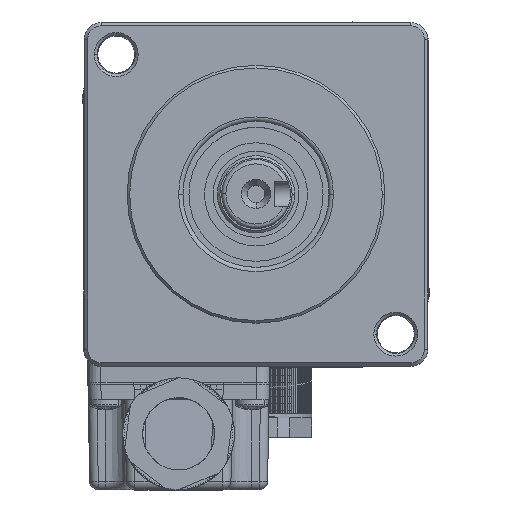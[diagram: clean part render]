
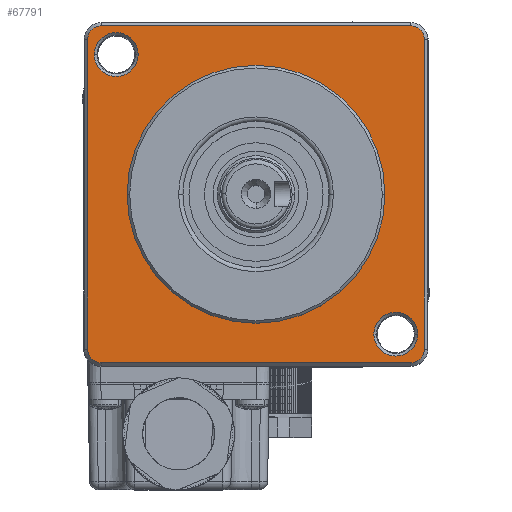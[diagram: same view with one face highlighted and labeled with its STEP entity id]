
A CAD part, top view. The second image highlights one B-rep face of the part: STEP entity #67791.
In plain terms, the highlighted planar face has unit normal (0, 0, 1).
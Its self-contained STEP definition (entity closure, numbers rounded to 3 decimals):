
#529 = FACE_BOUND ( 'NONE', #37255, .T. ) ;
#634 = DIRECTION ( 'NONE',  ( 0., 0., -1. ) ) ;
#776 = AXIS2_PLACEMENT_3D ( 'NONE', #30513, #68548, #35999 ) ;
#1549 = ORIENTED_EDGE ( 'NONE', *, *, #65966, .F. ) ;
#1742 = DIRECTION ( 'NONE',  ( 0., -1., 0. ) ) ;
#1791 = VECTOR ( 'NONE', #1742, 1000. ) ;
#1874 = EDGE_LOOP ( 'NONE', ( #19103, #3293, #68563, #58141, #1549, #63149, #64607, #27851 ) ) ;
#2596 = AXIS2_PLACEMENT_3D ( 'NONE', #44986, #12418, #50431 ) ;
#3293 = ORIENTED_EDGE ( 'NONE', *, *, #62099, .F. ) ;
#4223 = DIRECTION ( 'NONE',  ( 0., 0., -1. ) ) ;
#7172 = VERTEX_POINT ( 'NONE', #37139 ) ;
#7427 = CARTESIAN_POINT ( 'NONE',  ( 20.769, 1.553, 110. ) ) ;
#8245 = EDGE_CURVE ( 'NONE', #11551, #52463, #45125, .T. ) ;
#8761 = AXIS2_PLACEMENT_3D ( 'NONE', #10009, #48056, #15517 ) ;
#9031 = AXIS2_PLACEMENT_3D ( 'NONE', #56033, #28937, #66999 ) ;
#10009 = CARTESIAN_POINT ( 'NONE',  ( 1.169, 1.553, 110. ) ) ;
#11551 = VERTEX_POINT ( 'NONE', #59870 ) ;
#11583 = FACE_OUTER_BOUND ( 'NONE', #1874, .T. ) ;
#12418 = DIRECTION ( 'NONE',  ( 0., 0., -1. ) ) ;
#13029 = CIRCLE ( 'NONE', #57862, 2.55 ) ;
#14172 = CIRCLE ( 'NONE', #8761, 15. ) ;
#14634 = VERTEX_POINT ( 'NONE', #20790 ) ;
#14863 = DIRECTION ( 'NONE',  ( 0., 0., 1. ) ) ;
#15045 = EDGE_CURVE ( 'NONE', #33907, #22127, #35344, .T. ) ;
#15517 = DIRECTION ( 'NONE',  ( 1., 0., 0. ) ) ;
#15590 = VERTEX_POINT ( 'NONE', #62536 ) ;
#17226 = DIRECTION ( 'NONE',  ( 1., 0., 0. ) ) ;
#17272 = LINE ( 'NONE', #26955, #20663 ) ;
#17979 = PLANE ( 'NONE',  #9031 ) ;
#18024 = VERTEX_POINT ( 'NONE', #47745 ) ;
#19103 = ORIENTED_EDGE ( 'NONE', *, *, #68981, .F. ) ;
#19479 = CARTESIAN_POINT ( 'NONE',  ( 1.169, -18.047, 110. ) ) ;
#20207 = AXIS2_PLACEMENT_3D ( 'NONE', #22486, #60525, #27969 ) ;
#20663 = VECTOR ( 'NONE', #64989, 1000. ) ;
#20790 = CARTESIAN_POINT ( 'NONE',  ( 20.769, -16.447, 110. ) ) ;
#21400 = EDGE_CURVE ( 'NONE', #69579, #7172, #13029, .T. ) ;
#21945 = CARTESIAN_POINT ( 'NONE',  ( -17.645, 17.817, 110. ) ) ;
#22127 = VERTEX_POINT ( 'NONE', #21945 ) ;
#22486 = CARTESIAN_POINT ( 'NONE',  ( -15.095, 17.817, 110. ) ) ;
#22801 = CIRCLE ( 'NONE', #61708, 1.6 ) ;
#25074 = CARTESIAN_POINT ( 'NONE',  ( -18.431, 19.553, 110. ) ) ;
#25360 = CARTESIAN_POINT ( 'NONE',  ( 19.982, -14.71, 110. ) ) ;
#25461 = EDGE_CURVE ( 'NONE', #52463, #31807, #17272, .T. ) ;
#25966 = EDGE_CURVE ( 'NONE', #7172, #69579, #58896, .T. ) ;
#26069 = FACE_BOUND ( 'NONE', #28342, .T. ) ;
#26153 = CARTESIAN_POINT ( 'NONE',  ( 17.432, -14.71, 110. ) ) ;
#26955 = CARTESIAN_POINT ( 'NONE',  ( -18.431, 1.553, 110. ) ) ;
#27806 = CARTESIAN_POINT ( 'NONE',  ( -18.431, -16.447, 110. ) ) ;
#27851 = ORIENTED_EDGE ( 'NONE', *, *, #8245, .F. ) ;
#27969 = DIRECTION ( 'NONE',  ( 1., 0., 0. ) ) ;
#28342 = EDGE_LOOP ( 'NONE', ( #53800, #54242 ) ) ;
#28476 = DIRECTION ( 'NONE',  ( 0., 0., -1. ) ) ;
#28539 = VECTOR ( 'NONE', #63244, 1000. ) ;
#28937 = DIRECTION ( 'NONE',  ( 0., 0., 1. ) ) ;
#30513 = CARTESIAN_POINT ( 'NONE',  ( -15.095, 17.817, 110. ) ) ;
#30720 = LINE ( 'NONE', #7427, #1791 ) ;
#30828 = CARTESIAN_POINT ( 'NONE',  ( 17.432, -14.71, 110. ) ) ;
#31619 = DIRECTION ( 'NONE',  ( 1., 0., 0. ) ) ;
#31807 = VERTEX_POINT ( 'NONE', #25074 ) ;
#33251 = CARTESIAN_POINT ( 'NONE',  ( 19.169, -16.447, 110. ) ) ;
#33907 = VERTEX_POINT ( 'NONE', #50201 ) ;
#35344 = CIRCLE ( 'NONE', #776, 2.55 ) ;
#35788 = CIRCLE ( 'NONE', #2596, 1.6 ) ;
#35849 = VECTOR ( 'NONE', #17226, 1000. ) ;
#35999 = DIRECTION ( 'NONE',  ( 1., 0., 0. ) ) ;
#36202 = AXIS2_PLACEMENT_3D ( 'NONE', #33251, #634, #38708 ) ;
#36322 = DIRECTION ( 'NONE',  ( 1., 0., 0. ) ) ;
#36381 = VERTEX_POINT ( 'NONE', #56416 ) ;
#36612 = ORIENTED_EDGE ( 'NONE', *, *, #53493, .F. ) ;
#36708 = VERTEX_POINT ( 'NONE', #49462 ) ;
#36831 = CARTESIAN_POINT ( 'NONE',  ( -16.831, -16.447, 110. ) ) ;
#37139 = CARTESIAN_POINT ( 'NONE',  ( 14.882, -14.71, 110. ) ) ;
#37255 = EDGE_LOOP ( 'NONE', ( #41172, #50630 ) ) ;
#38708 = DIRECTION ( 'NONE',  ( 1., 0., 0. ) ) ;
#38888 = EDGE_CURVE ( 'NONE', #36708, #14634, #30720, .T. ) ;
#39392 = EDGE_LOOP ( 'NONE', ( #36612, #70486 ) ) ;
#39666 = VERTEX_POINT ( 'NONE', #47254 ) ;
#41172 = ORIENTED_EDGE ( 'NONE', *, *, #21400, .F. ) ;
#42264 = DIRECTION ( 'NONE',  ( 1., 0., 0. ) ) ;
#42980 = LINE ( 'NONE', #19479, #28539 ) ;
#43628 = VERTEX_POINT ( 'NONE', #51897 ) ;
#44799 = CARTESIAN_POINT ( 'NONE',  ( 1.169, 21.153, 110. ) ) ;
#44986 = CARTESIAN_POINT ( 'NONE',  ( -16.831, 19.553, 110. ) ) ;
#45125 = CIRCLE ( 'NONE', #66980, 1.6 ) ;
#46946 = AXIS2_PLACEMENT_3D ( 'NONE', #47422, #14863, #52904 ) ;
#47254 = CARTESIAN_POINT ( 'NONE',  ( -16.831, 21.153, 110. ) ) ;
#47422 = CARTESIAN_POINT ( 'NONE',  ( 1.169, 1.553, 110. ) ) ;
#47745 = CARTESIAN_POINT ( 'NONE',  ( 19.169, 21.153, 110. ) ) ;
#48056 = DIRECTION ( 'NONE',  ( 0., 0., 1. ) ) ;
#48825 = CIRCLE ( 'NONE', #46946, 15. ) ;
#49462 = CARTESIAN_POINT ( 'NONE',  ( 20.769, 19.553, 110. ) ) ;
#50201 = CARTESIAN_POINT ( 'NONE',  ( -12.545, 17.817, 110. ) ) ;
#50431 = DIRECTION ( 'NONE',  ( 1., 0., 0. ) ) ;
#50630 = ORIENTED_EDGE ( 'NONE', *, *, #25966, .F. ) ;
#51897 = CARTESIAN_POINT ( 'NONE',  ( -13.831, 1.553, 110. ) ) ;
#52463 = VERTEX_POINT ( 'NONE', #27806 ) ;
#52904 = DIRECTION ( 'NONE',  ( 1., 0., 0. ) ) ;
#53406 = CIRCLE ( 'NONE', #36202, 1.6 ) ;
#53493 = EDGE_CURVE ( 'NONE', #15590, #43628, #14172, .T. ) ;
#53800 = ORIENTED_EDGE ( 'NONE', *, *, #15045, .F. ) ;
#54242 = ORIENTED_EDGE ( 'NONE', *, *, #54694, .F. ) ;
#54694 = EDGE_CURVE ( 'NONE', #22127, #33907, #68486, .T. ) ;
#56033 = CARTESIAN_POINT ( 'NONE',  ( 1.169, 1.553, 110. ) ) ;
#56416 = CARTESIAN_POINT ( 'NONE',  ( 19.169, -18.047, 110. ) ) ;
#57638 = AXIS2_PLACEMENT_3D ( 'NONE', #26153, #64182, #31619 ) ;
#57862 = AXIS2_PLACEMENT_3D ( 'NONE', #30828, #68876, #36322 ) ;
#58141 = ORIENTED_EDGE ( 'NONE', *, *, #62164, .F. ) ;
#58896 = CIRCLE ( 'NONE', #57638, 2.55 ) ;
#59870 = CARTESIAN_POINT ( 'NONE',  ( -16.831, -18.047, 110. ) ) ;
#60525 = DIRECTION ( 'NONE',  ( 0., 0., 1. ) ) ;
#61029 = CARTESIAN_POINT ( 'NONE',  ( 19.169, 19.553, 110. ) ) ;
#61708 = AXIS2_PLACEMENT_3D ( 'NONE', #61029, #28476, #66534 ) ;
#62099 = EDGE_CURVE ( 'NONE', #14634, #36381, #53406, .T. ) ;
#62164 = EDGE_CURVE ( 'NONE', #18024, #36708, #22801, .T. ) ;
#62536 = CARTESIAN_POINT ( 'NONE',  ( 16.169, 1.553, 110. ) ) ;
#63149 = ORIENTED_EDGE ( 'NONE', *, *, #66454, .F. ) ;
#63244 = DIRECTION ( 'NONE',  ( -1., 0., 0. ) ) ;
#64182 = DIRECTION ( 'NONE',  ( 0., 0., 1. ) ) ;
#64607 = ORIENTED_EDGE ( 'NONE', *, *, #25461, .F. ) ;
#64756 = LINE ( 'NONE', #44799, #35849 ) ;
#64989 = DIRECTION ( 'NONE',  ( 0., 1., 0. ) ) ;
#65966 = EDGE_CURVE ( 'NONE', #39666, #18024, #64756, .T. ) ;
#66454 = EDGE_CURVE ( 'NONE', #31807, #39666, #35788, .T. ) ;
#66534 = DIRECTION ( 'NONE',  ( 1., 0., 0. ) ) ;
#66980 = AXIS2_PLACEMENT_3D ( 'NONE', #36831, #4223, #42264 ) ;
#66999 = DIRECTION ( 'NONE',  ( 1., 0., 0. ) ) ;
#67760 = FACE_BOUND ( 'NONE', #39392, .T. ) ;
#67791 = ADVANCED_FACE ( 'NONE', ( #26069, #529, #11583, #67760 ), #17979, .T. ) ;
#68486 = CIRCLE ( 'NONE', #20207, 2.55 ) ;
#68548 = DIRECTION ( 'NONE',  ( 0., 0., 1. ) ) ;
#68563 = ORIENTED_EDGE ( 'NONE', *, *, #38888, .F. ) ;
#68876 = DIRECTION ( 'NONE',  ( 0., 0., 1. ) ) ;
#68981 = EDGE_CURVE ( 'NONE', #36381, #11551, #42980, .T. ) ;
#69579 = VERTEX_POINT ( 'NONE', #25360 ) ;
#69611 = EDGE_CURVE ( 'NONE', #43628, #15590, #48825, .T. ) ;
#70486 = ORIENTED_EDGE ( 'NONE', *, *, #69611, .F. ) ;
